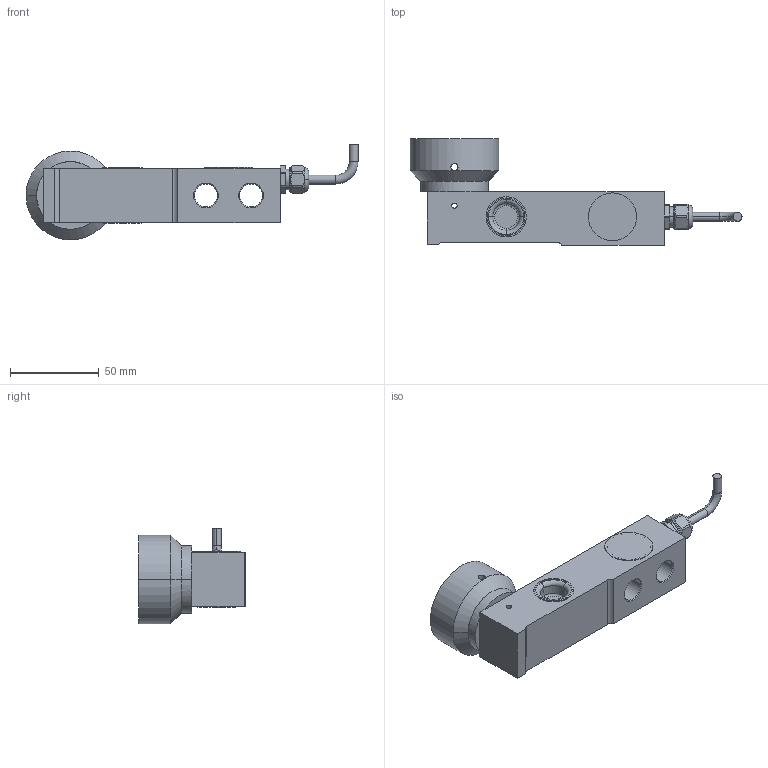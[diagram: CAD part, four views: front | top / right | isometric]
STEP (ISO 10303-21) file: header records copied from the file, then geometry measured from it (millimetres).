
FILE_DESCRIPTION((''),'2;1');
FILE_NAME('72208662-0745-110KG-1_SW0001','2014-07-30T',('wang-379'),(''),'PRO/ENGINEER BY PARAMETRIC TECHNOLOGY CORPORATION, 2013320','PRO/ENGINEER BY PARAMETRIC TECHNOLOGY CORPORATION, 2013320','');
FILE_SCHEMA(('CONFIG_CONTROL_DESIGN'));
Length unit declared in the file: millimetre
Products named in the file (1): 72208662-0745-110KG-1_SW0001
Bounding box: 186.72 x 59.98 x 53.88 mm (x, y, z)
Volume: 142099.4 mm3; surface area: 38408.1 mm2
Topology: 3 solids, 3 shells, 199 faces, 534 edges, 346 vertices
Faces by surface type: cylinder 73, plane 56, cone 44, torus 26
Entity records: 7012 total; most frequent: CARTESIAN_POINT 1811, DIRECTION 1167, ORIENTED_EDGE 1060, EDGE_CURVE 530, AXIS2_PLACEMENT_3D 491, VERTEX_POINT 346, CIRCLE 292, EDGE_LOOP 222
